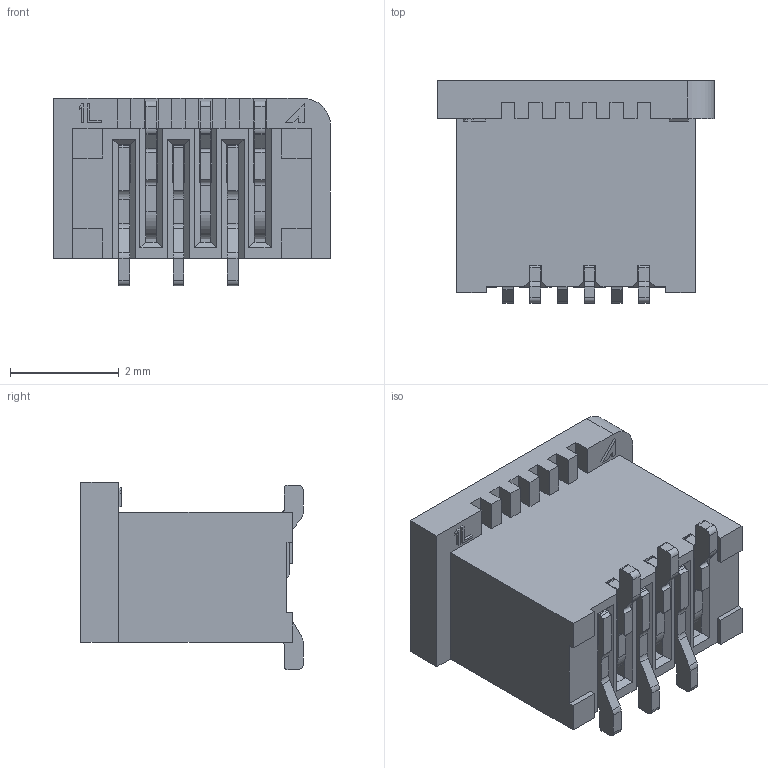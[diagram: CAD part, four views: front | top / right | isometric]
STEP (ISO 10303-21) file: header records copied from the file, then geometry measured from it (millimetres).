
FILE_DESCRIPTION((''),'2;1');
FILE_NAME('S-91526-006XX-XXX_ASM','2022-06-29T',('d34565'),(''),'CREO PARAMETRIC BY PTC INC, 2014500','CREO PARAMETRIC BY PTC INC, 2014500','');
FILE_SCHEMA(('CONFIG_CONTROL_DESIGN'));
Length unit declared in the file: millimetre
Products named in the file (1): S-91526-006XX-XXX_ASM
Bounding box: 5.1 x 4.1 x 3.45 mm (x, y, z)
Volume: 39 mm3; surface area: 119.9 mm2
Topology: 1 solids, 1 shells, 360 faces, 1014 edges, 669 vertices
Faces by surface type: plane 272, cylinder 76, cone 12
Entity records: 11528 total; most frequent: CARTESIAN_POINT 2062, ORIENTED_EDGE 1980, DIRECTION 1900, EDGE_CURVE 990, VECTOR 832, LINE 832, VERTEX_POINT 645, AXIS2_PLACEMENT_3D 534
